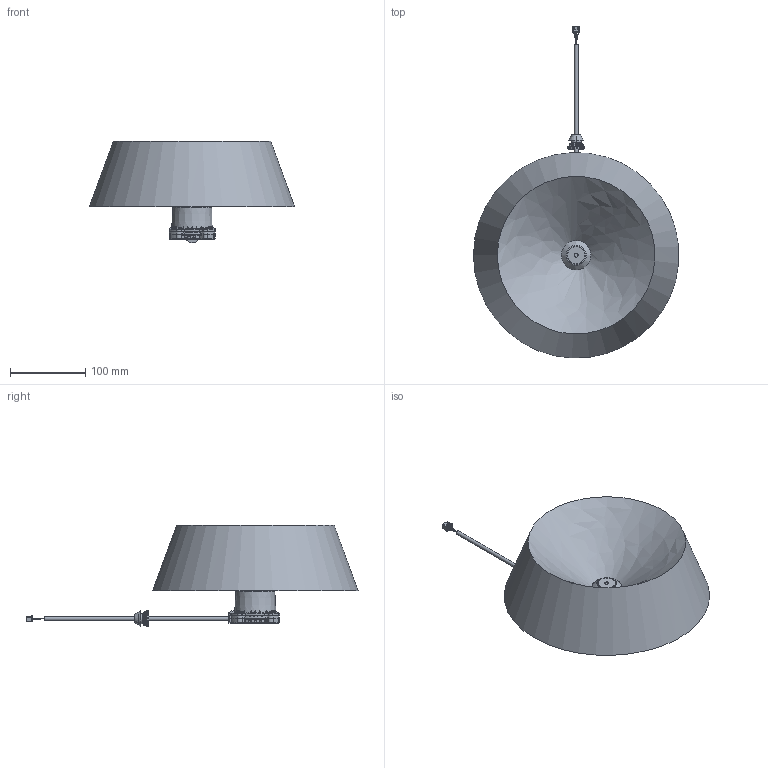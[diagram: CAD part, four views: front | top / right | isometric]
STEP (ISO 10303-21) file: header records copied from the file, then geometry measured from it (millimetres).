
FILE_DESCRIPTION(/* description */ (''),/* implementation_level */ '2;1');
FILE_NAME(/* name */ 'JT32-整机模型-常规FOV.stp',/* time_stamp */ '2026-03-06T21:31:46+08:00',/* author */ (''),/* organization */ (''),/* preprocessor_version */ 'ST-DEVELOPER v16.7',/* originating_system */ 'SIEMENS PLM Software NX 1934',/* authorisation */ '');
FILE_SCHEMA (('AUTOMOTIVE_DESIGN { 1 0 10303 214 3 1 1 1 }'));
Products named in the file (1): lipe4F7CFB72hazf
Bounding box: 273 x 441.69 x 135.46 mm (x, y, z)
Volume: 2984458.8 mm3; surface area: 215936.9 mm2
Topology: 27 solids, 27 shells, 2211 faces, 5265 edges, 3077 vertices
Faces by surface type: bspline 703, plane 552, cylinder 512, torus 227, cone 168, extrusion 24, sphere 21, revolution 4
Full cylindrical faces by diameter (mm): 0.3 x8, 1.86 x1, 2.05 x4, 2.5 x5, 4.34 x4, 5 x2, 5.5 x1, 6 x4, 9.017 x1, 23 x1
Entity records: 83982 total; most frequent: CARTESIAN_POINT 33178, ORIENTED_EDGE 10090, DIRECTION 8644, EDGE_CURVE 5045, AXIS2_PLACEMENT_3D 3544, VERTEX_POINT 3051, EDGE_LOOP 2381, ADVANCED_FACE 2211
